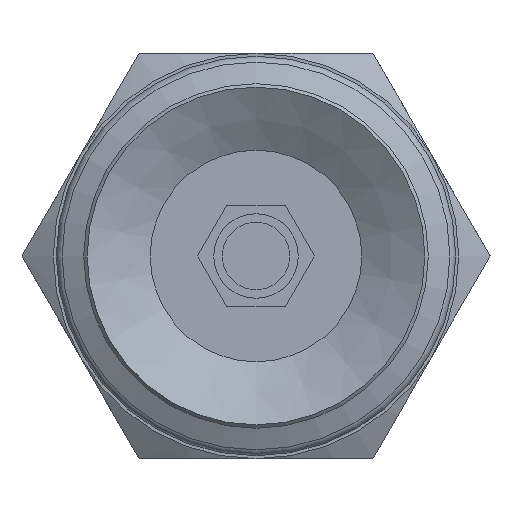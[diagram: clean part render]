
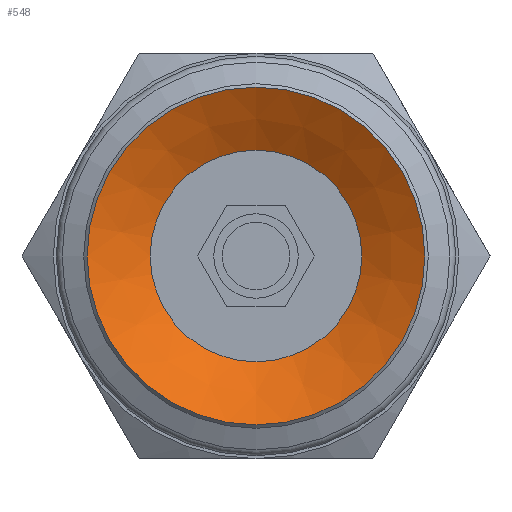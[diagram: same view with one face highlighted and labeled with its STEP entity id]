
A CAD part, front view. The second image highlights one B-rep face of the part: STEP entity #548.
In plain terms, the highlighted conical face has half-angle 60 degrees and reference radius 3.133 mm.
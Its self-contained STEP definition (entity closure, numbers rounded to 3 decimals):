
#548=ADVANCED_FACE('',(#797,#798),#799,.F.);
#797=FACE_BOUND('',#1085,.T.);
#798=FACE_OUTER_BOUND('',#1086,.T.);
#799=CONICAL_SURFACE('',#1087,3.133,1.047);
#1085=EDGE_LOOP('',(#1762));
#1086=EDGE_LOOP('',(#1763));
#1087=AXIS2_PLACEMENT_3D('',#1764,#1765,#1766);
#1762=ORIENTED_EDGE('',*,*,#2031,.F.);
#1763=ORIENTED_EDGE('',*,*,#2032,.T.);
#1764=CARTESIAN_POINT('',(0.0,7.659,0.));
#1765=DIRECTION('',(-0.0,-1.0,0.));
#1766=DIRECTION('',(0.0,0.,-1.0));
#2031=EDGE_CURVE('',#2337,#2337,#2338,.T.);
#2032=EDGE_CURVE('',#2339,#2339,#2340,.T.);
#2337=VERTEX_POINT('',#3007);
#2338=CIRCLE('',#3008,3.133);
#2339=VERTEX_POINT('',#3009);
#2340=CIRCLE('',#3010,5.0);
#3007=CARTESIAN_POINT('',(0.0,7.659,-3.133));
#3008=AXIS2_PLACEMENT_3D('',#3298,#3299,#3300);
#3009=CARTESIAN_POINT('',(0.0,6.581,-5.0));
#3010=AXIS2_PLACEMENT_3D('',#3301,#3302,#3303);
#3298=CARTESIAN_POINT('',(0.0,7.659,0.));
#3299=DIRECTION('',(0.0,-1.0,0.));
#3300=DIRECTION('',(0.0,0.,-1.0));
#3301=CARTESIAN_POINT('',(0.0,6.581,0.0));
#3302=DIRECTION('',(0.0,-1.0,0.));
#3303=DIRECTION('',(0.0,0.,-1.0));
